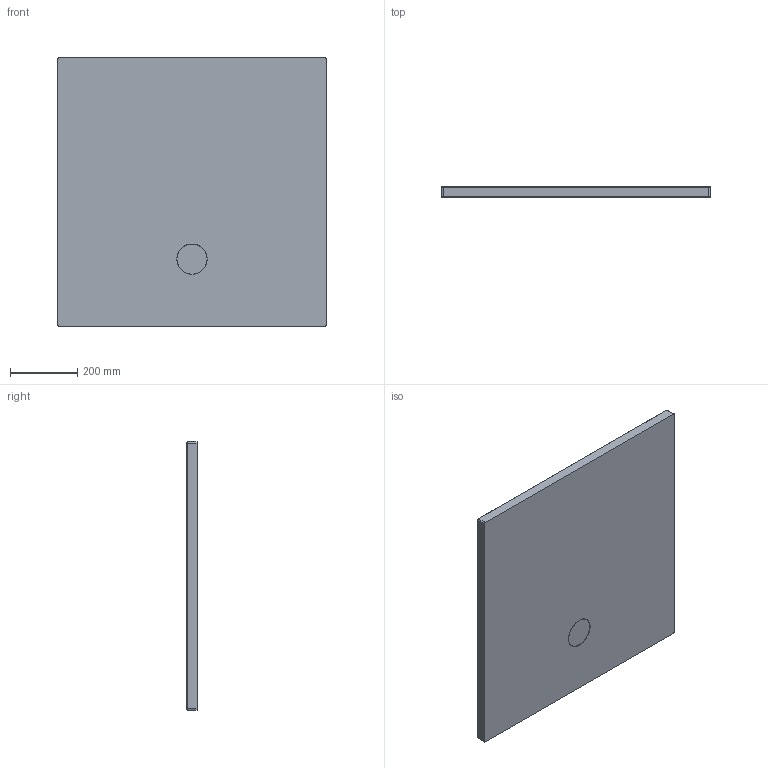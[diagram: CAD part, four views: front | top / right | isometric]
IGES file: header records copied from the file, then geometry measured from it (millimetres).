
Start section: SolidWorks IGES file using analytic representation for surfaces
Global section: file name: D:\Users\M.Szymanski\Desktop\Brodziki\SOLA\03. do przegrania\B_M_SOLA_80x80x1,5.IGS; native system: SolidWorks 2011; preprocessor: SolidWorks 2011; author: M.Szymanski; date: 180309.070357; units: millimetre
Bounding box: 800 x 30 x 800 mm (x, y, z)
Surface area: 1451134.4 mm2 (no closed solid volume)
Topology: 0 solids, 0 shells, 99 faces, 910 edges, 906 vertices
Faces by surface type: bspline 63, revolution 36
